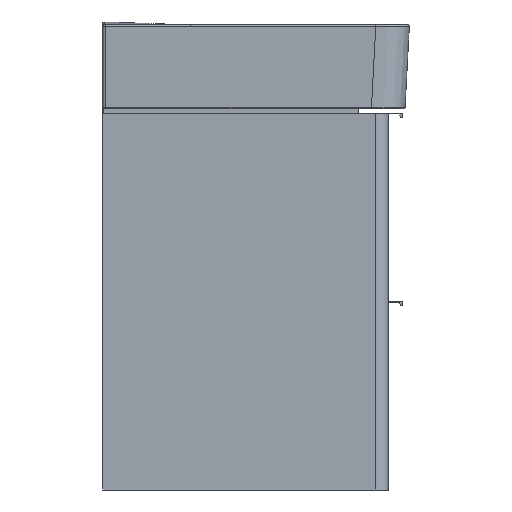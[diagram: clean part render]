
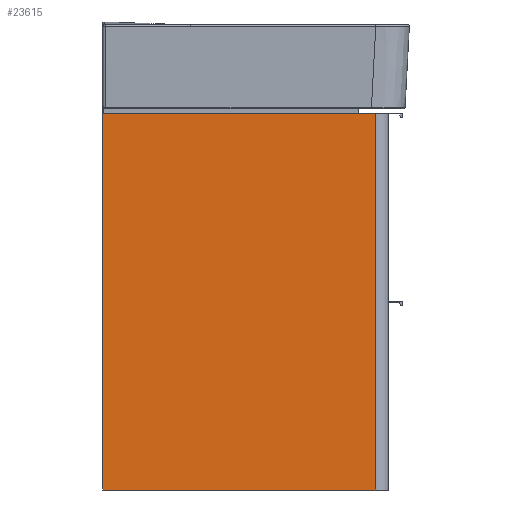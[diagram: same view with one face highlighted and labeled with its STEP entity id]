
A CAD part, left-side view. The second image highlights one B-rep face of the part: STEP entity #23615.
In plain terms, the highlighted planar face has unit normal (-1, 0, 0).
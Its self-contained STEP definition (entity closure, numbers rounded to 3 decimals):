
#4424=FACE_OUTER_BOUND('',#5533,.T.);
#5533=EDGE_LOOP('',(#17769,#17770,#17771,#17772));
#6804=LINE('',#32952,#8476);
#6806=LINE('',#32958,#8478);
#6810=LINE('',#32966,#8482);
#6811=LINE('',#32967,#8483);
#8476=VECTOR('',#27227,10.);
#8478=VECTOR('',#27233,10.);
#8482=VECTOR('',#27239,10.);
#8483=VECTOR('',#27240,10.);
#10138=VERTEX_POINT('',#32949);
#10139=VERTEX_POINT('',#32951);
#10141=VERTEX_POINT('',#32957);
#10144=VERTEX_POINT('',#32965);
#13716=EDGE_CURVE('',#10138,#10139,#6804,.T.);
#13719=EDGE_CURVE('',#10139,#10141,#6806,.T.);
#13723=EDGE_CURVE('',#10144,#10138,#6810,.T.);
#13724=EDGE_CURVE('',#10141,#10144,#6811,.T.);
#17769=ORIENTED_EDGE('',*,*,#13716,.F.);
#17770=ORIENTED_EDGE('',*,*,#13723,.F.);
#17771=ORIENTED_EDGE('',*,*,#13724,.F.);
#17772=ORIENTED_EDGE('',*,*,#13719,.F.);
#23114=PLANE('',#25138);
#23615=ADVANCED_FACE('',(#4424),#23114,.T.);
#25138=AXIS2_PLACEMENT_3D('',#32964,#27237,#27238);
#27227=DIRECTION('',(0.,0.,-1.));
#27233=DIRECTION('',(0.,1.,0.));
#27237=DIRECTION('center_axis',(-1.,0.,0.));
#27238=DIRECTION('ref_axis',(0.,-1.,0.));
#27239=DIRECTION('',(0.,-1.,0.));
#27240=DIRECTION('',(0.,0.,1.));
#32949=CARTESIAN_POINT('',(-366.25,-178.5,515.));
#32951=CARTESIAN_POINT('',(-366.25,-178.5,0.));
#32952=CARTESIAN_POINT('',(-366.25,-178.5,0.));
#32957=CARTESIAN_POINT('',(-366.25,195.5,0.));
#32958=CARTESIAN_POINT('',(-366.25,-195.5,0.));
#32964=CARTESIAN_POINT('Origin',(-366.25,195.5,0.));
#32965=CARTESIAN_POINT('',(-366.25,195.5,515.));
#32966=CARTESIAN_POINT('',(-366.25,-195.5,515.));
#32967=CARTESIAN_POINT('',(-366.25,195.5,0.));
